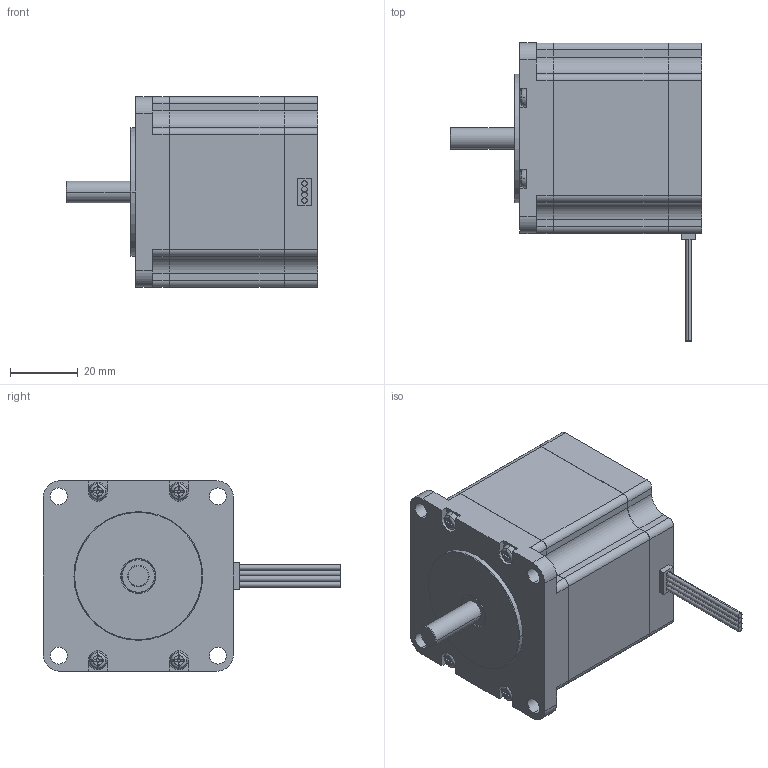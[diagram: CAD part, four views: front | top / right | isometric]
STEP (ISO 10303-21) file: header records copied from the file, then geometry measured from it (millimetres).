
FILE_DESCRIPTION (( 'STEP AP203' ), '1' );
FILE_NAME ('C-57STM03_203.STEP', '2021-08-06T09:03:25', ( '' ), ( '' ), 'SwSTEP 2.0', 'SolidWorks 2017', '' );
FILE_SCHEMA (( 'CONFIG_CONTROL_DESIGN' ));
Length unit declared in the file: millimetre
Products named in the file (1): C-57STM03_203
Bounding box: 74.6 x 88.2 x 56.4 mm (x, y, z)
Volume: 158204 mm3; surface area: 19359.7 mm2
Topology: 1 solids, 1 shells, 374 faces, 1024 edges, 670 vertices
Faces by surface type: plane 148, cylinder 106, cone 64, torus 56
Entity records: 12563 total; most frequent: CARTESIAN_POINT 3021, ORIENTED_EDGE 2048, DIRECTION 1956, EDGE_CURVE 1024, AXIS2_PLACEMENT_3D 765, VERTEX_POINT 670, LINE 426, VECTOR 426
